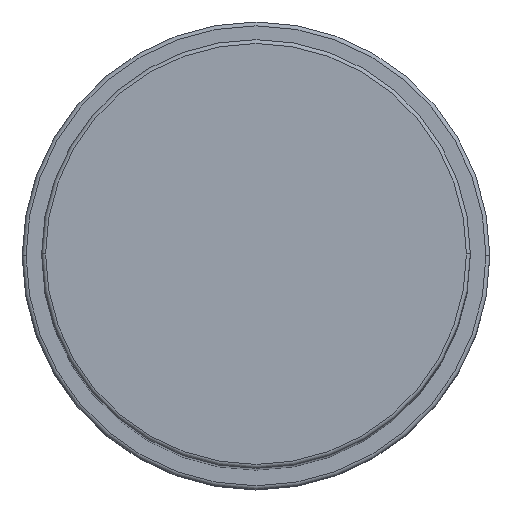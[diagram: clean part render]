
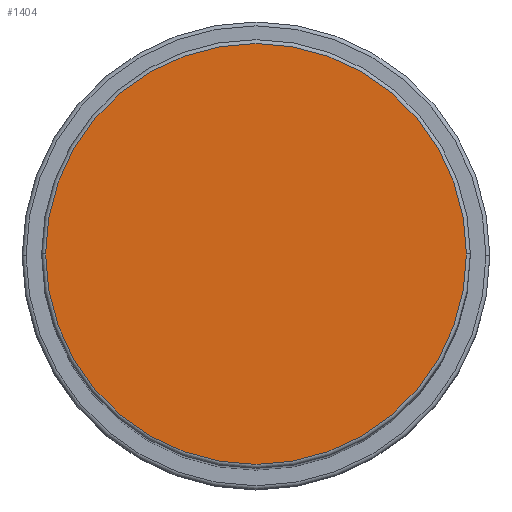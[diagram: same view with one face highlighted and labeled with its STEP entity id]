
A CAD part, top view. The second image highlights one B-rep face of the part: STEP entity #1404.
In plain terms, the highlighted planar face has unit normal (0, 0, 1).
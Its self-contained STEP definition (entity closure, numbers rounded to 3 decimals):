
#73 = AXIS2_PLACEMENT_3D ( 'NONE', #1300, #1582, #1705 ) ;
#131 = DIRECTION ( 'NONE',  ( 1., 0., 0. ) ) ;
#283 = CIRCLE ( 'NONE', #1697, 27. ) ;
#299 = CARTESIAN_POINT ( 'NONE',  ( -27., 0., 148. ) ) ;
#316 = ORIENTED_EDGE ( 'NONE', *, *, #917, .T. ) ;
#397 = DIRECTION ( 'NONE',  ( 0., 0., 1. ) ) ;
#664 = CARTESIAN_POINT ( 'NONE',  ( 0., 0., 148. ) ) ;
#732 = PLANE ( 'NONE',  #73 ) ;
#917 = EDGE_CURVE ( 'NONE', #1597, #1161, #283, .T. ) ;
#945 = EDGE_CURVE ( 'NONE', #1161, #1597, #1801, .T. ) ;
#948 = FACE_OUTER_BOUND ( 'NONE', #1016, .T. ) ;
#1016 = EDGE_LOOP ( 'NONE', ( #316, #1468 ) ) ;
#1059 = CARTESIAN_POINT ( 'NONE',  ( 0., 0., 148. ) ) ;
#1080 = DIRECTION ( 'NONE',  ( 0., 0., 1. ) ) ;
#1161 = VERTEX_POINT ( 'NONE', #299 ) ;
#1204 = DIRECTION ( 'NONE',  ( 1., 0., 0. ) ) ;
#1300 = CARTESIAN_POINT ( 'NONE',  ( 0., 0., 148. ) ) ;
#1404 = ADVANCED_FACE ( 'NONE', ( #948 ), #732, .T. ) ;
#1468 = ORIENTED_EDGE ( 'NONE', *, *, #945, .T. ) ;
#1582 = DIRECTION ( 'NONE',  ( 0., 0., 1. ) ) ;
#1596 = AXIS2_PLACEMENT_3D ( 'NONE', #664, #397, #131 ) ;
#1597 = VERTEX_POINT ( 'NONE', #1638 ) ;
#1638 = CARTESIAN_POINT ( 'NONE',  ( 27., 0., 148. ) ) ;
#1697 = AXIS2_PLACEMENT_3D ( 'NONE', #1059, #1080, #1204 ) ;
#1705 = DIRECTION ( 'NONE',  ( 1., 0., 0. ) ) ;
#1801 = CIRCLE ( 'NONE', #1596, 27. ) ;
